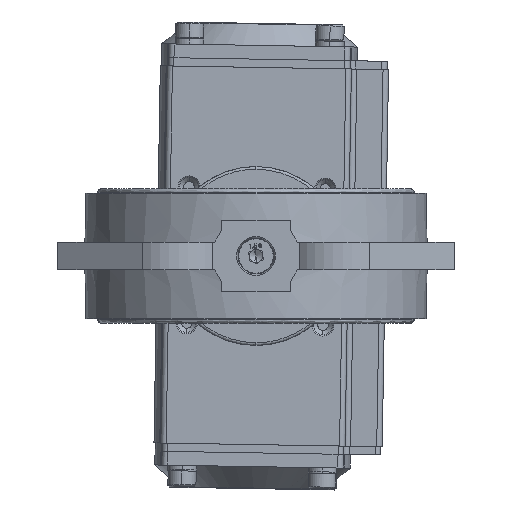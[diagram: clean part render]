
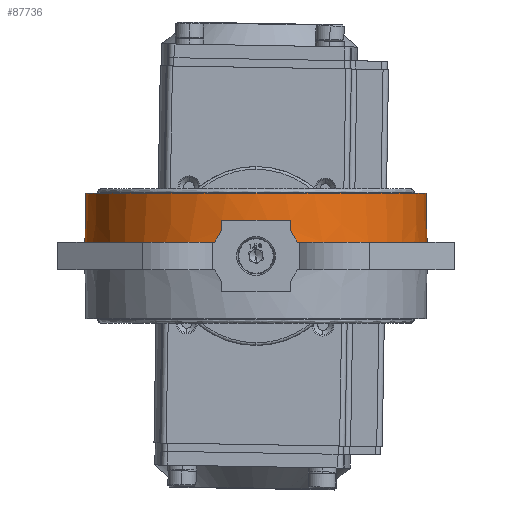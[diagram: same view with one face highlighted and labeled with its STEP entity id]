
A CAD part, front view. The second image highlights one B-rep face of the part: STEP entity #87736.
In plain terms, the highlighted conical face has half-angle 1.259 degrees and reference radius 61.75 mm.
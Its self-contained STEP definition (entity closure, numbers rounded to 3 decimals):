
#250 = EDGE_LOOP ( 'NONE', ( #48761, #1394, #21803, #21446, #48093, #35577, #10302, #28060, #39325, #56173, #92931, #90776, #91720, #57682 ) ) ;
#1394 = ORIENTED_EDGE ( 'NONE', *, *, #41844, .F. ) ;
#3899 = DIRECTION ( 'NONE',  ( 0.022, 0., -1. ) ) ;
#5669 = VERTEX_POINT ( 'NONE', #14865 ) ;
#5795 = VECTOR ( 'NONE', #95724, 1000. ) ;
#5814 = CARTESIAN_POINT ( 'NONE',  ( 57.497, -23.569, 5. ) ) ;
#6118 = EDGE_CURVE ( 'NONE', #15518, #17392, #98205, .T. ) ;
#7232 = CARTESIAN_POINT ( 'NONE',  ( 12.5, -60.773, 9.33 ) ) ;
#7759 = CARTESIAN_POINT ( 'NONE',  ( -12.5, -60.773, 9.33 ) ) ;
#7965 = DIRECTION ( 'NONE',  ( 0., 0.022, 1. ) ) ;
#8242 = CARTESIAN_POINT ( 'NONE',  ( -57.448, -23.976, 0. ) ) ;
#8286 = DIRECTION ( 'NONE',  ( -1., 0., 0. ) ) ;
#8428 = LINE ( 'NONE', #79931, #23021 ) ;
#9311 = LINE ( 'NONE', #7232, #90211 ) ;
#10302 = ORIENTED_EDGE ( 'NONE', *, *, #99891, .F. ) ;
#10517 = CARTESIAN_POINT ( 'NONE',  ( -13.337, -60.633, 7.881 ) ) ;
#10535 = DIRECTION ( 'NONE',  ( 0., 0., -1. ) ) ;
#11148 = EDGE_CURVE ( 'NONE', #16045, #11522, #102540, .T. ) ;
#11198 = CARTESIAN_POINT ( 'NONE',  ( -61.75, 0., 22.75 ) ) ;
#11522 = VERTEX_POINT ( 'NONE', #71964 ) ;
#12341 = CARTESIAN_POINT ( 'NONE',  ( -15., -60.303, 5. ) ) ;
#14027 = CARTESIAN_POINT ( 'NONE',  ( 13.337, -60.633, 7.881 ) ) ;
#14176 = VERTEX_POINT ( 'NONE', #53510 ) ;
#14865 = CARTESIAN_POINT ( 'NONE',  ( -57.448, -23.976, 0. ) ) ;
#15390 = EDGE_CURVE ( 'NONE', #39888, #15518, #37602, .T. ) ;
#15429 = CARTESIAN_POINT ( 'NONE',  ( 57.497, -23.569, 5. ) ) ;
#15518 = VERTEX_POINT ( 'NONE', #48382 ) ;
#16045 = VERTEX_POINT ( 'NONE', #57503 ) ;
#16709 = EDGE_CURVE ( 'NONE', #77054, #92456, #105310, .T. ) ;
#17147 = DIRECTION ( 'NONE',  ( -1., 0., 0. ) ) ;
#17392 = VERTEX_POINT ( 'NONE', #15429 ) ;
#17561 = B_SPLINE_CURVE_WITH_KNOTS ( 'NONE', 3,
 ( #51999, #42393, #34213, #8242 ),
 .UNSPECIFIED., .F., .F.,
 ( 4, 4 ),
 ( 0., 1. ),
 .UNSPECIFIED. ) ;
#19388 = AXIS2_PLACEMENT_3D ( 'NONE', #34612, #93580, #59438 ) ;
#20602 = CIRCLE ( 'NONE', #84373, 62.14 ) ;
#21281 = VERTEX_POINT ( 'NONE', #53287 ) ;
#21446 = ORIENTED_EDGE ( 'NONE', *, *, #67242, .F. ) ;
#21453 = CARTESIAN_POINT ( 'NONE',  ( 14.17, -60.476, 6.438 ) ) ;
#21803 = ORIENTED_EDGE ( 'NONE', *, *, #16709, .T. ) ;
#23021 = VECTOR ( 'NONE', #3899, 1000. ) ;
#24917 = AXIS2_PLACEMENT_3D ( 'NONE', #25737, #102105, #8286 ) ;
#24924 = CARTESIAN_POINT ( 'NONE',  ( 61.75, 0., 22.75 ) ) ;
#25122 = AXIS2_PLACEMENT_3D ( 'NONE', #43555, #10535, #61329 ) ;
#25737 = CARTESIAN_POINT ( 'NONE',  ( 0., 0., 22.75 ) ) ;
#28060 = ORIENTED_EDGE ( 'NONE', *, *, #45590, .F. ) ;
#31012 = EDGE_CURVE ( 'NONE', #79969, #5669, #17561, .T. ) ;
#31830 = DIRECTION ( 'NONE',  ( -1., 0., 0. ) ) ;
#32293 = AXIS2_PLACEMENT_3D ( 'NONE', #36285, #63341, #37376 ) ;
#32422 = AXIS2_PLACEMENT_3D ( 'NONE', #42399, #50880, #17147 ) ;
#34213 = CARTESIAN_POINT ( 'NONE',  ( -57.462, -23.84, 1.768 ) ) ;
#34612 = CARTESIAN_POINT ( 'NONE',  ( 0., 0., 0. ) ) ;
#35577 = ORIENTED_EDGE ( 'NONE', *, *, #71343, .F. ) ;
#36285 = CARTESIAN_POINT ( 'NONE',  ( 0., 0., 5. ) ) ;
#37376 = DIRECTION ( 'NONE',  ( -1., 0., 0. ) ) ;
#37602 = CIRCLE ( 'NONE', #80675, 62.25 ) ;
#37948 = CARTESIAN_POINT ( 'NONE',  ( -15., -60.303, 5. ) ) ;
#39245 = CARTESIAN_POINT ( 'NONE',  ( 12.5, -60.773, 9.33 ) ) ;
#39325 = ORIENTED_EDGE ( 'NONE', *, *, #11148, .F. ) ;
#39888 = VERTEX_POINT ( 'NONE', #108079 ) ;
#39970 = CARTESIAN_POINT ( 'NONE',  ( 0., 0., 5. ) ) ;
#40519 = CONICAL_SURFACE ( 'NONE', #24917, 61.75, 0.022 ) ;
#41844 = EDGE_CURVE ( 'NONE', #77054, #64609, #79752, .T. ) ;
#42393 = CARTESIAN_POINT ( 'NONE',  ( -57.479, -23.704, 3.434 ) ) ;
#42399 = CARTESIAN_POINT ( 'NONE',  ( 0., 0., 22.75 ) ) ;
#42993 = EDGE_CURVE ( 'NONE', #14176, #16045, #9311, .T. ) ;
#43555 = CARTESIAN_POINT ( 'NONE',  ( 0., 0., 13. ) ) ;
#45590 = EDGE_CURVE ( 'NONE', #11522, #62040, #65245, .T. ) ;
#48093 = ORIENTED_EDGE ( 'NONE', *, *, #31012, .F. ) ;
#48382 = CARTESIAN_POINT ( 'NONE',  ( 57.448, -23.976, 0. ) ) ;
#48761 = ORIENTED_EDGE ( 'NONE', *, *, #72869, .F. ) ;
#50880 = DIRECTION ( 'NONE',  ( 0., 0., 1. ) ) ;
#51999 = CARTESIAN_POINT ( 'NONE',  ( -57.497, -23.569, 5. ) ) ;
#53287 = CARTESIAN_POINT ( 'NONE',  ( 15., -60.303, 5. ) ) ;
#53510 = CARTESIAN_POINT ( 'NONE',  ( 12.5, -60.773, 9.33 ) ) ;
#54459 =( BOUNDED_CURVE ( )  B_SPLINE_CURVE ( 3, ( #77635, #10517, #63527, #12341 ),
 .UNSPECIFIED., .F., .F. ) 
 B_SPLINE_CURVE_WITH_KNOTS ( ( 4, 4 ),
 ( 4.878, 4.919 ),
 .UNSPECIFIED. ) 
 CURVE ( )  GEOMETRIC_REPRESENTATION_ITEM ( )  RATIONAL_B_SPLINE_CURVE ( ( 1., 1., 1., 1. ) ) 
 REPRESENTATION_ITEM ( '' )  );
#56173 = ORIENTED_EDGE ( 'NONE', *, *, #42993, .F. ) ;
#56630 = CARTESIAN_POINT ( 'NONE',  ( 57.479, -23.704, 3.434 ) ) ;
#57503 = CARTESIAN_POINT ( 'NONE',  ( 12.5, -60.69, 13. ) ) ;
#57682 = ORIENTED_EDGE ( 'NONE', *, *, #15390, .F. ) ;
#57730 = FACE_OUTER_BOUND ( 'NONE', #250, .T. ) ;
#59438 = DIRECTION ( 'NONE',  ( -1., 0., 0. ) ) ;
#61329 = DIRECTION ( 'NONE',  ( -1., 0., 0. ) ) ;
#62040 = VERTEX_POINT ( 'NONE', #7759 ) ;
#62204 = EDGE_CURVE ( 'NONE', #17392, #21281, #92826, .T. ) ;
#62260 = CARTESIAN_POINT ( 'NONE',  ( -62.25, 0., 0. ) ) ;
#63341 = DIRECTION ( 'NONE',  ( 0., 0., -1. ) ) ;
#63527 = CARTESIAN_POINT ( 'NONE',  ( -14.17, -60.476, 6.438 ) ) ;
#64609 = VERTEX_POINT ( 'NONE', #24924 ) ;
#64836 = CARTESIAN_POINT ( 'NONE',  ( 15., -60.303, 5. ) ) ;
#65245 = LINE ( 'NONE', #83429, #98432 ) ;
#65253 = DIRECTION ( 'NONE',  ( -1., 0., 0. ) ) ;
#66157 = CIRCLE ( 'NONE', #19388, 62.25 ) ;
#66964 = CARTESIAN_POINT ( 'NONE',  ( -61.75, 0., 22.75 ) ) ;
#67242 = EDGE_CURVE ( 'NONE', #5669, #92456, #66157, .T. ) ;
#71343 = EDGE_CURVE ( 'NONE', #81610, #79969, #20602, .T. ) ;
#71964 = CARTESIAN_POINT ( 'NONE',  ( -12.5, -60.69, 13. ) ) ;
#72869 = EDGE_CURVE ( 'NONE', #64609, #39888, #8428, .T. ) ;
#73017 = CARTESIAN_POINT ( 'NONE',  ( 57.448, -23.976, 0. ) ) ;
#74618 = DIRECTION ( 'NONE',  ( 0., -0.022, -1. ) ) ;
#77054 = VERTEX_POINT ( 'NONE', #66964 ) ;
#77635 = CARTESIAN_POINT ( 'NONE',  ( -12.5, -60.773, 9.33 ) ) ;
#79752 = CIRCLE ( 'NONE', #32422, 61.75 ) ;
#79931 = CARTESIAN_POINT ( 'NONE',  ( 61.75, 0., 22.75 ) ) ;
#79969 = VERTEX_POINT ( 'NONE', #98297 ) ;
#80675 = AXIS2_PLACEMENT_3D ( 'NONE', #100071, #82975, #65253 ) ;
#81463 = CARTESIAN_POINT ( 'NONE',  ( 57.462, -23.84, 1.768 ) ) ;
#81610 = VERTEX_POINT ( 'NONE', #37948 ) ;
#82574 = DIRECTION ( 'NONE',  ( 0., 0., -1. ) ) ;
#82975 = DIRECTION ( 'NONE',  ( 0., 0., -1. ) ) ;
#83429 = CARTESIAN_POINT ( 'NONE',  ( -12.5, -60.69, 13. ) ) ;
#84373 = AXIS2_PLACEMENT_3D ( 'NONE', #39970, #82574, #31830 ) ;
#85690 =( BOUNDED_CURVE ( )  B_SPLINE_CURVE ( 3, ( #64836, #21453, #14027, #39245 ),
 .UNSPECIFIED., .F., .T. ) 
 B_SPLINE_CURVE_WITH_KNOTS ( ( 4, 4 ),
 ( 1.364, 1.405 ),
 .UNSPECIFIED. ) 
 CURVE ( )  GEOMETRIC_REPRESENTATION_ITEM ( )  RATIONAL_B_SPLINE_CURVE ( ( 1., 1., 1., 1. ) ) 
 REPRESENTATION_ITEM ( '' )  );
#87736 = ADVANCED_FACE ( 'NONE', ( #57730 ), #40519, .T. ) ;
#90211 = VECTOR ( 'NONE', #7965, 1000. ) ;
#90776 = ORIENTED_EDGE ( 'NONE', *, *, #62204, .F. ) ;
#91720 = ORIENTED_EDGE ( 'NONE', *, *, #6118, .F. ) ;
#92456 = VERTEX_POINT ( 'NONE', #62260 ) ;
#92826 = CIRCLE ( 'NONE', #32293, 62.14 ) ;
#92931 = ORIENTED_EDGE ( 'NONE', *, *, #104665, .F. ) ;
#93580 = DIRECTION ( 'NONE',  ( 0., 0., -1. ) ) ;
#95724 = DIRECTION ( 'NONE',  ( -0.022, 0., -1. ) ) ;
#98205 = B_SPLINE_CURVE_WITH_KNOTS ( 'NONE', 3,
 ( #73017, #81463, #56630, #5814 ),
 .UNSPECIFIED., .F., .F.,
 ( 4, 4 ),
 ( 0., 1. ),
 .UNSPECIFIED. ) ;
#98297 = CARTESIAN_POINT ( 'NONE',  ( -57.497, -23.569, 5. ) ) ;
#98432 = VECTOR ( 'NONE', #74618, 1000. ) ;
#99891 = EDGE_CURVE ( 'NONE', #62040, #81610, #54459, .T. ) ;
#100071 = CARTESIAN_POINT ( 'NONE',  ( 0., 0., 0. ) ) ;
#102105 = DIRECTION ( 'NONE',  ( 0., 0., -1. ) ) ;
#102540 = CIRCLE ( 'NONE', #25122, 61.964 ) ;
#104665 = EDGE_CURVE ( 'NONE', #21281, #14176, #85690, .T. ) ;
#105310 = LINE ( 'NONE', #11198, #5795 ) ;
#108079 = CARTESIAN_POINT ( 'NONE',  ( 62.25, 0., 0. ) ) ;
